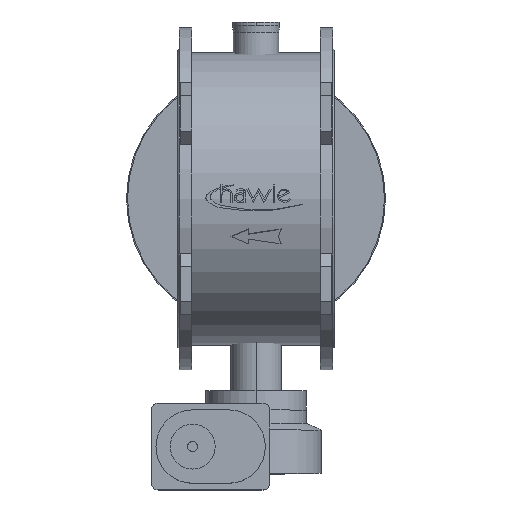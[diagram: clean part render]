
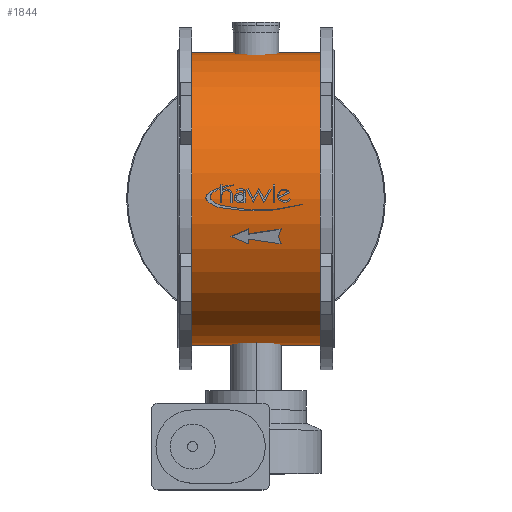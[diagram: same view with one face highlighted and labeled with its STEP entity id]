
A CAD part, top view. The second image highlights one B-rep face of the part: STEP entity #1844.
In plain terms, the highlighted cylindrical face has radius 438 mm (diameter 876 mm), a partial arc.
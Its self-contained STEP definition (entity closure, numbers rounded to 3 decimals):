
#1844=ADVANCED_FACE('',(#3521),#3522,.T.);
#3521=FACE_OUTER_BOUND('',#5313,.T.);
#3522=CYLINDRICAL_SURFACE('',#5314,438.0);
#5313=EDGE_LOOP('',(#8874,#8875,#8876,#8877));
#5314=AXIS2_PLACEMENT_3D('',#8878,#8879,#8880);
#8874=ORIENTED_EDGE('',*,*,#9661,.T.);
#8875=ORIENTED_EDGE('',*,*,#10858,.T.);
#8876=ORIENTED_EDGE('',*,*,#9663,.T.);
#8877=ORIENTED_EDGE('',*,*,#9942,.T.);
#8878=CARTESIAN_POINT('',(-427.0,0.,0.0));
#8879=DIRECTION('',(1.0,0.,0.0));
#8880=DIRECTION('',(0.,-1.0,0.0));
#9661=EDGE_CURVE('',#11374,#11375,#11376,.T.);
#9663=EDGE_CURVE('',#11379,#11377,#11380,.T.);
#9942=EDGE_CURVE('',#11377,#11374,#11837,.T.);
#10858=EDGE_CURVE('',#11375,#11379,#13067,.T.);
#11374=VERTEX_POINT('',#13674);
#11375=VERTEX_POINT('',#13675);
#11376=LINE('',#13676,#13677);
#11377=VERTEX_POINT('',#13678);
#11379=VERTEX_POINT('',#13680);
#11380=LINE('',#13681,#13682);
#11837=CIRCLE('',#14252,438.0);
#13067=CIRCLE('',#15819,438.0);
#13674=CARTESIAN_POINT('',(-427.0,-438.0,0.0));
#13675=CARTESIAN_POINT('',(-43.0,-438.0,0.0));
#13676=CARTESIAN_POINT('',(-427.0,-438.0,0.));
#13677=VECTOR('',#16323,1.0);
#13678=CARTESIAN_POINT('',(-427.0,438.0,0.));
#13680=CARTESIAN_POINT('',(-43.0,438.0,0.));
#13681=CARTESIAN_POINT('',(-427.0,438.0,0.));
#13682=VECTOR('',#16327,1.0);
#14252=AXIS2_PLACEMENT_3D('',#16735,#16736,#16737);
#15819=AXIS2_PLACEMENT_3D('',#17864,#17865,#17866);
#16323=DIRECTION('',(1.0,0.,0.0));
#16327=DIRECTION('',(-1.0,0.,-0.0));
#16735=CARTESIAN_POINT('',(-427.0,0.,0.0));
#16736=DIRECTION('',(1.0,0.,0.0));
#16737=DIRECTION('',(0.,-1.0,0.0));
#17864=CARTESIAN_POINT('',(-43.0,0.,0.0));
#17865=DIRECTION('',(-1.0,0.,0.0));
#17866=DIRECTION('',(0.,-1.0,0.0));
